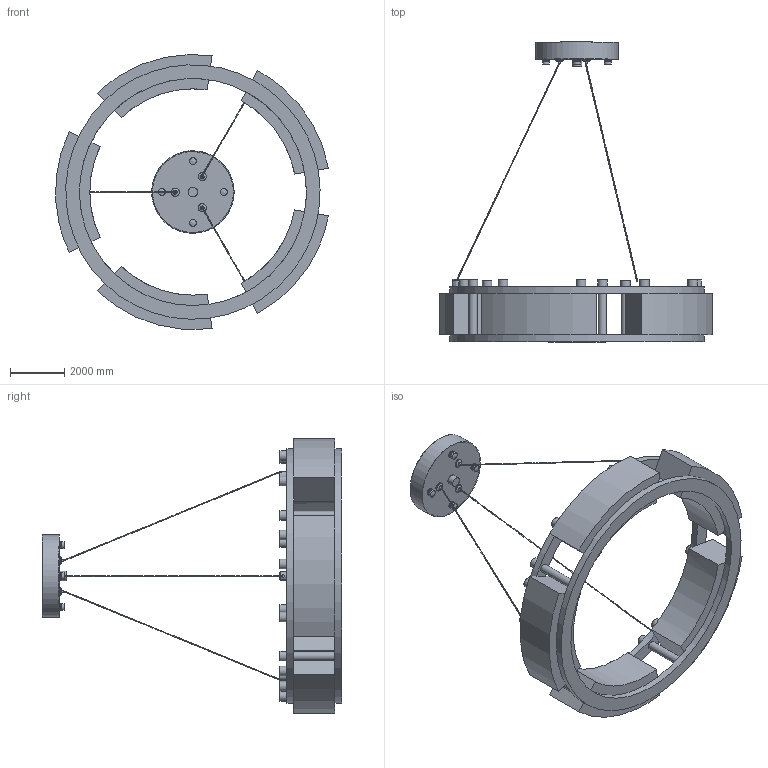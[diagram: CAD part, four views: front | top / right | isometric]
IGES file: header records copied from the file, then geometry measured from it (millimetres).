
Global section: file name: Qatar Alabaster Chandelier-D15.7″,4; native system: 8HAutoCAD 2022 - 简体中文 (Simplified Chinese); preprocessor: Autodesk Translation Framework DWG producer (atf_dwg_producer); organization: unknown; date: 20250716.174744; units: inch
Bounding box: 10073.85 x 11072.34 x 10155.72 mm (x, y, z)
Volume: 34038465455.5 mm3; surface area: 334951527.9 mm2
Topology: 40 solids, 45 shells, 208 faces, 357 edges, 256 vertices
Faces by surface type: bspline 208
